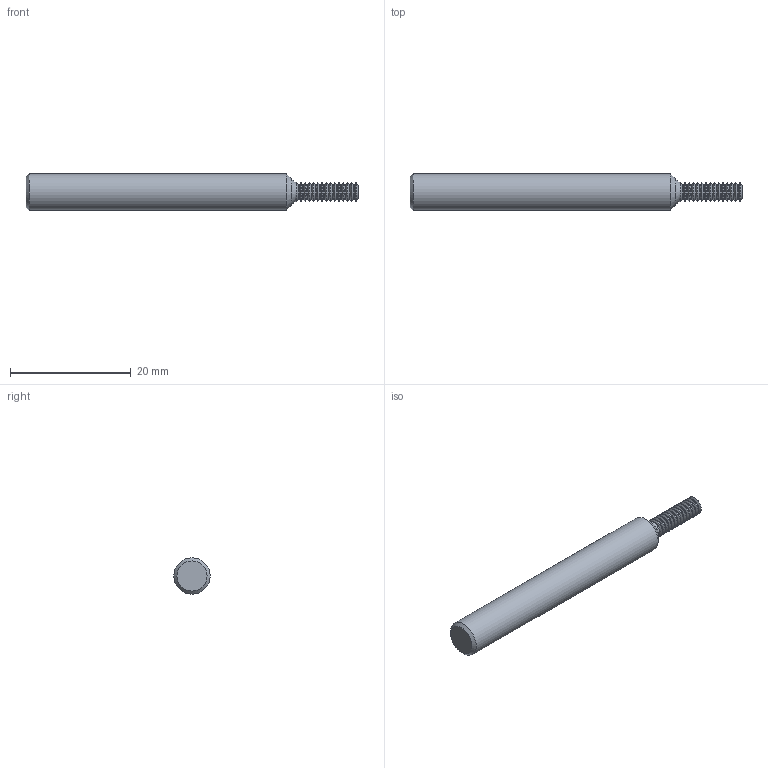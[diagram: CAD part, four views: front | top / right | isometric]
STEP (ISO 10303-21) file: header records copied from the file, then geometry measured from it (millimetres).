
FILE_DESCRIPTION(/* description */ (''),/* implementation_level */ '2;1');
FILE_NAME(/* name */ '00057460-TDM',/* time_stamp */ '2024-02-12T07:20:21+01:00',/* author */ (''),/* organization */ (''),/* preprocessor_version */ 'ST-DEVELOPER v16.5',/* originating_system */ 'HiCAD 2017 2201.0 Build 268',/* authorisation */ '');
FILE_SCHEMA (('AUTOMOTIVE_DESIGN { 1 0 10303 214 1 1 1 1 }'));
Length unit declared in the file: millimetre
Products named in the file (3): Root; ROTATIONSTEIL_0
Assembly tree (2 placements, depth 3):
  Root
    ROTATIONSTEIL_0
      ROTATIONSTEIL_0
Bounding box: 55 x 6 x 6 mm (x, y, z)
Volume: 1301.5 mm3; surface area: 1039.1 mm2
Topology: 2 solids, 2 shells, 94 faces, 183 edges, 93 vertices
Faces by surface type: cone 32, cylinder 30, torus 28, plane 4
Full cylindrical faces by diameter (mm): 2.402 x14, 3.15 x15, 6 x1
Entity records: 2844 total; most frequent: DIRECTION 380, CARTESIAN_POINT 282, AXIS2_PLACEMENT_3D 190, PRESENTATION_STYLE_ASSIGNMENT 186, COLOUR_RGB 186, DRAUGHTING_PRE_DEFINED_CURVE_FONT 184, CURVE_STYLE 184, OVER_RIDING_STYLED_ITEM 184
